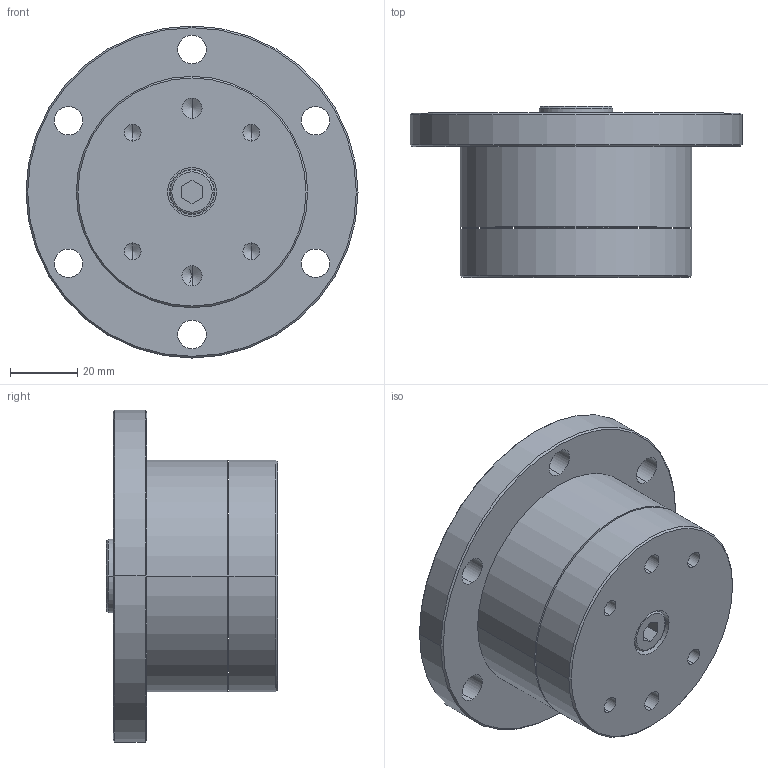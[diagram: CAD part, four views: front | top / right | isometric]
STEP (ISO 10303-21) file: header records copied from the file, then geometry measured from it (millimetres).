
FILE_DESCRIPTION (( 'STEP AP203' ), '1' );
FILE_NAME ('FGU-NEH-10-2T.STEP', '2022-10-31T08:27:44', ( '' ), ( '' ), 'SwSTEP 2.0', 'SolidWorks 2021', '' );
FILE_SCHEMA (( 'CONFIG_CONTROL_DESIGN' ));
Length unit declared in the file: millimetre
Products named in the file (1): FGU-NEH-10-2T
Bounding box: 99 x 51 x 99 mm (x, y, z)
Volume: 215605.9 mm3; surface area: 38316.6 mm2
Topology: 1 solids, 1 shells, 160 faces, 372 edges, 237 vertices
Faces by surface type: plane 70, cylinder 66, cone 22, torus 2
Entity records: 4651 total; most frequent: DIRECTION 840, CARTESIAN_POINT 764, ORIENTED_EDGE 732, EDGE_CURVE 366, AXIS2_PLACEMENT_3D 313, VERTEX_POINT 237, LINE 214, VECTOR 214
